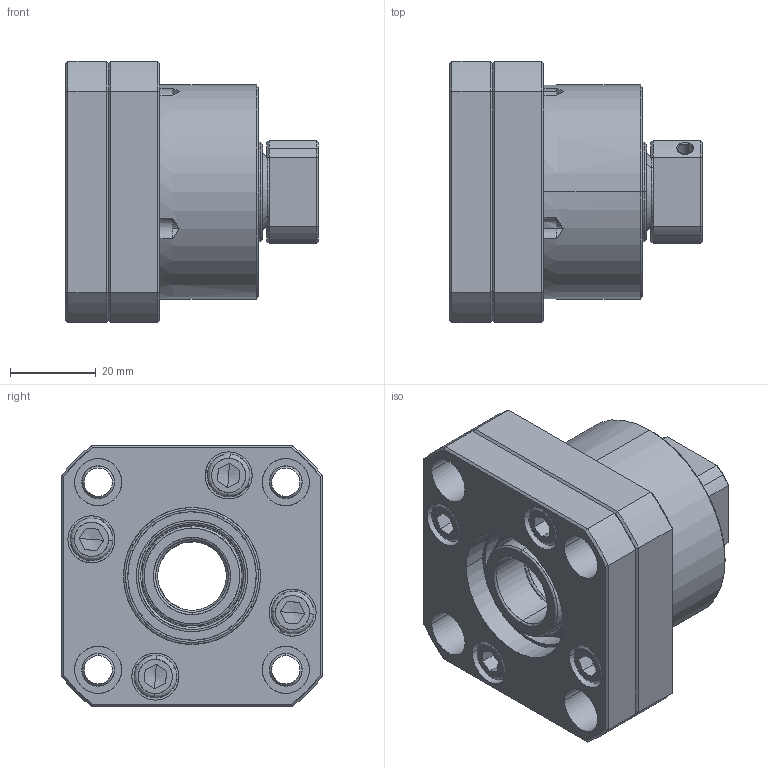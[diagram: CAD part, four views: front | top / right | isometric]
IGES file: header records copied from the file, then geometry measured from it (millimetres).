
Start section: SolidWorks IGES file using analytic representation for surfaces
Global section: file name: 4HC:\Users\117\Desktop\FK17組合B.IGS; native system: SolidWorks 2018; preprocessor: SolidWorks 2018; author: 117; date: 210929.092450; units: millimetre
Bounding box: 59 x 61 x 61 mm (x, y, z)
Surface area: 28193.1 mm2 (no closed solid volume)
Topology: 0 solids, 0 shells, 229 faces, 2834 edges, 2826 vertices
Faces by surface type: revolution 131, bspline 98
